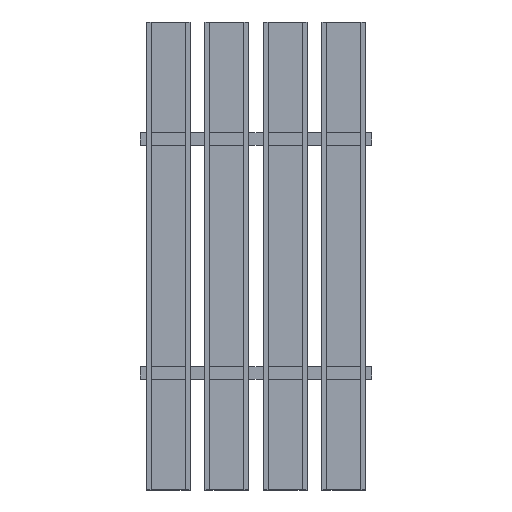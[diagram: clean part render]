
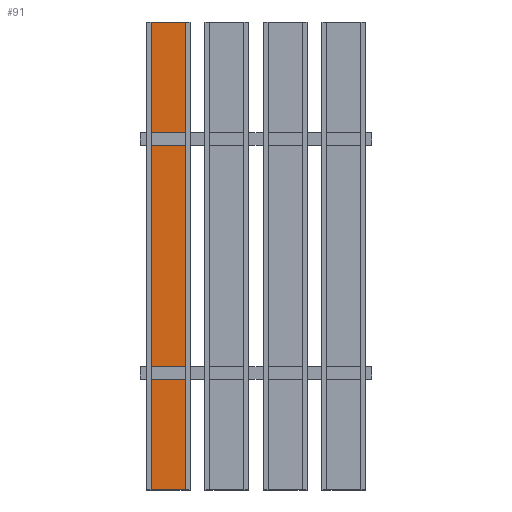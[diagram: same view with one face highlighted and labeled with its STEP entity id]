
A CAD part, top view. The second image highlights one B-rep face of the part: STEP entity #91.
In plain terms, the highlighted planar face has unit normal (0, 0, 1).
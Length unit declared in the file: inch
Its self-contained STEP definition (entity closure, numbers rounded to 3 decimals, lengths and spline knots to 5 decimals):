
#91=ADVANCED_FACE('',(#207),#1927,.T.);
#207=FACE_OUTER_BOUND('',#331,.T.);
#331=EDGE_LOOP('',(#642,#643,#644,#645));
#642=ORIENTED_EDGE('',*,*,#1176,.F.);
#643=ORIENTED_EDGE('',*,*,#1196,.T.);
#644=ORIENTED_EDGE('',*,*,#1182,.F.);
#645=ORIENTED_EDGE('',*,*,#1193,.F.);
#1176=EDGE_CURVE('',#1764,#1765,#1488,.T.);
#1182=EDGE_CURVE('',#1770,#1771,#1494,.T.);
#1193=EDGE_CURVE('',#1765,#1770,#1505,.T.);
#1196=EDGE_CURVE('',#1764,#1771,#1508,.T.);
#1488=B_SPLINE_CURVE_WITH_KNOTS('',1,(#2903,#2904),.UNSPECIFIED.,.F.,.F.,
(2,2),(0.,48.),.UNSPECIFIED.);
#1494=B_SPLINE_CURVE_WITH_KNOTS('',1,(#2915,#2916),.UNSPECIFIED.,.F.,.F.,
(2,2),(0.,48.),.UNSPECIFIED.);
#1505=B_SPLINE_CURVE_WITH_KNOTS('',1,(#2937,#2938),.UNSPECIFIED.,.F.,.F.,
(2,2),(0.,3.5),.UNSPECIFIED.);
#1508=B_SPLINE_CURVE_WITH_KNOTS('',1,(#2943,#2944),.UNSPECIFIED.,.F.,.F.,
(2,2),(0.,3.5),.UNSPECIFIED.);
#1764=VERTEX_POINT('',#2533);
#1765=VERTEX_POINT('',#2534);
#1770=VERTEX_POINT('',#2539);
#1771=VERTEX_POINT('',#2540);
#1927=PLANE('',#2134);
#2134=AXIS2_PLACEMENT_3D('',#2372,#2253,$);
#2253=DIRECTION('',(0.,0.,1.));
#2372=CARTESIAN_POINT('',(-15.89528,28.80472,-1.));
#2533=CARTESIAN_POINT('',(-19.75,-24.,-1.));
#2534=CARTESIAN_POINT('',(-19.75,24.,-1.));
#2539=CARTESIAN_POINT('',(-16.25,24.,-1.));
#2540=CARTESIAN_POINT('',(-16.25,-24.,-1.));
#2903=CARTESIAN_POINT('',(-19.75,-24.,-1.));
#2904=CARTESIAN_POINT('',(-19.75,24.,-1.));
#2915=CARTESIAN_POINT('',(-16.25,24.,-1.));
#2916=CARTESIAN_POINT('',(-16.25,-24.,-1.));
#2937=CARTESIAN_POINT('',(-19.75,24.,-1.));
#2938=CARTESIAN_POINT('',(-16.25,24.,-1.));
#2943=CARTESIAN_POINT('',(-19.75,-24.,-1.));
#2944=CARTESIAN_POINT('',(-16.25,-24.,-1.));
